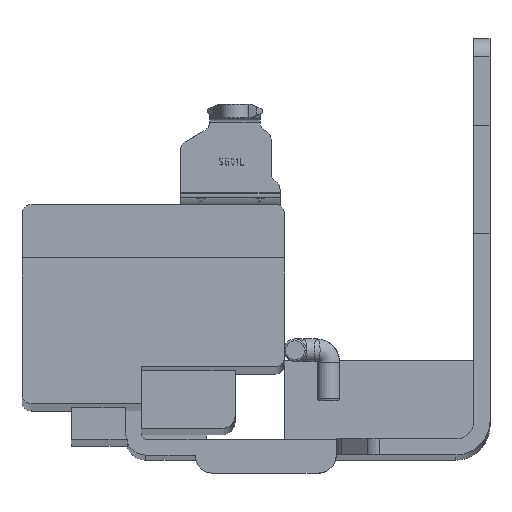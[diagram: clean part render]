
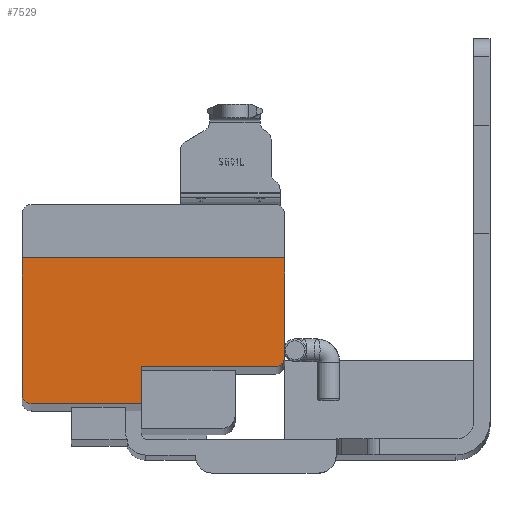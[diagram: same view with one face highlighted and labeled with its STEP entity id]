
A CAD part, top view. The second image highlights one B-rep face of the part: STEP entity #7529.
In plain terms, the highlighted planar face has unit normal (0, 0, 1).
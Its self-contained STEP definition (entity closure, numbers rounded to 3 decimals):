
#375 = AXIS2_PLACEMENT_3D ( 'NONE', #6577, #1431, #7439 ) ;
#676 = FACE_OUTER_BOUND ( 'NONE', #8992, .T. ) ;
#711 = EDGE_CURVE ( 'NONE', #8842, #3820, #3320, .T. ) ;
#913 = DIRECTION ( 'NONE',  ( -1., 0., 0. ) ) ;
#944 = DIRECTION ( 'NONE',  ( 0., 0., -1. ) ) ;
#1233 = ORIENTED_EDGE ( 'NONE', *, *, #10822, .F. ) ;
#1305 = ORIENTED_EDGE ( 'NONE', *, *, #7163, .T. ) ;
#1355 = CARTESIAN_POINT ( 'NONE',  ( -70.88, -17.1, 444.3 ) ) ;
#1431 = DIRECTION ( 'NONE',  ( 0., 0., -1. ) ) ;
#1728 = DIRECTION ( 'NONE',  ( 0., -1., 0. ) ) ;
#1778 = VECTOR ( 'NONE', #3556, 1000. ) ;
#1802 = VECTOR ( 'NONE', #1728, 1000. ) ;
#2072 = LINE ( 'NONE', #2584, #1802 ) ;
#2257 = VERTEX_POINT ( 'NONE', #2590 ) ;
#2584 = CARTESIAN_POINT ( 'NONE',  ( -71.88, 0., 444.3 ) ) ;
#2590 = CARTESIAN_POINT ( 'NONE',  ( -42.85, -2., 444.3 ) ) ;
#2700 = EDGE_CURVE ( 'NONE', #2257, #9645, #3570, .T. ) ;
#3320 = CIRCLE ( 'NONE', #4544, 1. ) ;
#3515 = VERTEX_POINT ( 'NONE', #9806 ) ;
#3556 = DIRECTION ( 'NONE',  ( -1., 0., 0. ) ) ;
#3570 = LINE ( 'NONE', #10861, #5591 ) ;
#3626 = VECTOR ( 'NONE', #6862, 1000. ) ;
#3677 = EDGE_CURVE ( 'NONE', #9645, #7208, #7451, .T. ) ;
#3721 = VERTEX_POINT ( 'NONE', #9304 ) ;
#3820 = VERTEX_POINT ( 'NONE', #7700 ) ;
#4030 = CARTESIAN_POINT ( 'NONE',  ( -58.68, 0., 444.3 ) ) ;
#4296 = ORIENTED_EDGE ( 'NONE', *, *, #9276, .T. ) ;
#4485 = CARTESIAN_POINT ( 'NONE',  ( -42.85, -13., 444.3 ) ) ;
#4544 = AXIS2_PLACEMENT_3D ( 'NONE', #1355, #944, #913 ) ;
#4557 = DIRECTION ( 'NONE',  ( 0., 0., 1. ) ) ;
#4899 = DIRECTION ( 'NONE',  ( 0., -1., 0. ) ) ;
#5084 = EDGE_CURVE ( 'NONE', #3515, #3820, #2072, .T. ) ;
#5268 = ORIENTED_EDGE ( 'NONE', *, *, #8334, .F. ) ;
#5340 = VERTEX_POINT ( 'NONE', #8127 ) ;
#5511 = LINE ( 'NONE', #4030, #9825 ) ;
#5567 = LINE ( 'NONE', #5684, #7576 ) ;
#5591 = VECTOR ( 'NONE', #9986, 1000. ) ;
#5684 = CARTESIAN_POINT ( 'NONE',  ( -40.3, -18.1, 444.3 ) ) ;
#5915 = LINE ( 'NONE', #11169, #3626 ) ;
#6017 = AXIS2_PLACEMENT_3D ( 'NONE', #9724, #4557, #10583 ) ;
#6555 = DIRECTION ( 'NONE',  ( 1., 0., 0. ) ) ;
#6577 = CARTESIAN_POINT ( 'NONE',  ( -43.85, -13., 444.3 ) ) ;
#6862 = DIRECTION ( 'NONE',  ( -1., 0., 0. ) ) ;
#6898 = CARTESIAN_POINT ( 'NONE',  ( -43.85, -14., 444.3 ) ) ;
#7163 = EDGE_CURVE ( 'NONE', #2257, #3515, #5915, .T. ) ;
#7208 = VERTEX_POINT ( 'NONE', #6898 ) ;
#7439 = DIRECTION ( 'NONE',  ( -1., 0., 0. ) ) ;
#7451 = CIRCLE ( 'NONE', #375, 1. ) ;
#7529 = ADVANCED_FACE ( 'NONE', ( #676 ), #7972, .T. ) ;
#7576 = VECTOR ( 'NONE', #6555, 1000. ) ;
#7700 = CARTESIAN_POINT ( 'NONE',  ( -71.88, -17.1, 444.3 ) ) ;
#7972 = PLANE ( 'NONE',  #6017 ) ;
#8127 = CARTESIAN_POINT ( 'NONE',  ( -58.68, -14., 444.3 ) ) ;
#8245 = CARTESIAN_POINT ( 'NONE',  ( -70.88, -18.1, 444.3 ) ) ;
#8334 = EDGE_CURVE ( 'NONE', #5340, #3721, #5511, .T. ) ;
#8374 = LINE ( 'NONE', #8724, #1778 ) ;
#8598 = ORIENTED_EDGE ( 'NONE', *, *, #5084, .T. ) ;
#8724 = CARTESIAN_POINT ( 'NONE',  ( -40.3, -14., 444.3 ) ) ;
#8842 = VERTEX_POINT ( 'NONE', #8245 ) ;
#8992 = EDGE_LOOP ( 'NONE', ( #1305, #8598, #11004, #4296, #5268, #1233, #11140, #10992 ) ) ;
#9276 = EDGE_CURVE ( 'NONE', #8842, #3721, #5567, .T. ) ;
#9304 = CARTESIAN_POINT ( 'NONE',  ( -58.68, -18.1, 444.3 ) ) ;
#9645 = VERTEX_POINT ( 'NONE', #4485 ) ;
#9724 = CARTESIAN_POINT ( 'NONE',  ( -40.3, 0., 444.3 ) ) ;
#9806 = CARTESIAN_POINT ( 'NONE',  ( -71.88, -2., 444.3 ) ) ;
#9825 = VECTOR ( 'NONE', #4899, 1000. ) ;
#9986 = DIRECTION ( 'NONE',  ( 0., -1., 0. ) ) ;
#10583 = DIRECTION ( 'NONE',  ( -1., 0., 0. ) ) ;
#10822 = EDGE_CURVE ( 'NONE', #7208, #5340, #8374, .T. ) ;
#10861 = CARTESIAN_POINT ( 'NONE',  ( -42.85, 0., 444.3 ) ) ;
#10992 = ORIENTED_EDGE ( 'NONE', *, *, #2700, .F. ) ;
#11004 = ORIENTED_EDGE ( 'NONE', *, *, #711, .F. ) ;
#11140 = ORIENTED_EDGE ( 'NONE', *, *, #3677, .F. ) ;
#11169 = CARTESIAN_POINT ( 'NONE',  ( -40.3, -2., 444.3 ) ) ;
